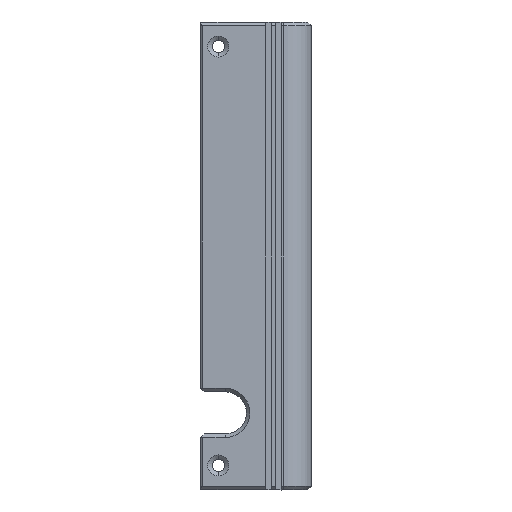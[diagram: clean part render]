
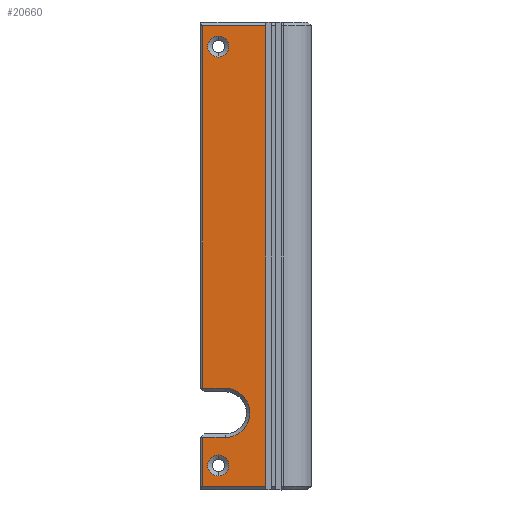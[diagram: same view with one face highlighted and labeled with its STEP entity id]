
A CAD part, left-side view. The second image highlights one B-rep face of the part: STEP entity #20660.
In plain terms, the highlighted planar face has unit normal (-1, 0, 0) as drawn and (1, 0, 0) by its records, which use the part's own axes.
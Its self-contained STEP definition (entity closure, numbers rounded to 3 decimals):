
#7426=DIRECTION('',(0.,0.,1.));
#7427=VECTOR('',#7426,131.5);
#7428=CARTESIAN_POINT('',(188.2,18.5,-132.5));
#7429=LINE('',#7428,#7427);
#7454=DIRECTION('',(0.,0.,-1.));
#7455=VECTOR('',#7454,14.);
#7456=CARTESIAN_POINT('',(188.2,0.5,
-118.5));
#7457=LINE('',#7456,#7455);
#7461=CARTESIAN_POINT('',(188.2,0.5,-132.5));
#9481=CARTESIAN_POINT('',(188.2,0.5,-1.));
#9486=DIRECTION('',(0.,0.,-1.));
#9487=VECTOR('',#9486,103.5);
#9488=CARTESIAN_POINT('',(188.2,0.5,-1.));
#9489=LINE('',#9488,#9487);
#9499=CARTESIAN_POINT('',(188.2,0.5,
-104.5));
#9504=DIRECTION('',(0.,1.,0.));
#9505=VECTOR('',#9504,6.5);
#9506=CARTESIAN_POINT('',(188.2,0.5,
-104.5));
#9507=LINE('',#9506,#9505);
#9518=CARTESIAN_POINT('',(188.2,7.,-111.5));
#9519=DIRECTION('',(1.,0.,0.));
#9520=DIRECTION('',(0.,0.,-1.));
#9521=AXIS2_PLACEMENT_3D('',#9518,#9519,#9520);
#9526=DIRECTION('',(0.,1.,0.));
#9527=VECTOR('',#9526,18.);
#9528=CARTESIAN_POINT('',(188.2,0.5,-1.));
#9529=LINE('',#9528,#9527);
#9533=DIRECTION('',(0.,-1.,0.));
#9534=VECTOR('',#9533,18.);
#9535=CARTESIAN_POINT('',(188.2,18.5,-132.5));
#9536=LINE('',#9535,#9534);
#9540=CARTESIAN_POINT('',(188.2,5.,-7.));
#9541=DIRECTION('',(1.,0.,0.));
#9542=DIRECTION('',(0.,0.,-1.));
#9543=AXIS2_PLACEMENT_3D('',#9540,#9541,#9542);
#9548=CARTESIAN_POINT('',(188.2,5.,-7.));
#9549=DIRECTION('',(1.,0.,0.));
#9550=DIRECTION('',(0.,0.,1.));
#9551=AXIS2_PLACEMENT_3D('',#9548,#9549,#9550);
#9556=CARTESIAN_POINT('',(188.2,5.,-126.5));
#9557=DIRECTION('',(1.,0.,0.));
#9558=DIRECTION('',(0.,0.,-1.));
#9559=AXIS2_PLACEMENT_3D('',#9556,#9557,#9558);
#9564=CARTESIAN_POINT('',(188.2,5.,-126.5));
#9565=DIRECTION('',(1.,0.,0.));
#9566=DIRECTION('',(0.,0.,1.));
#9567=AXIS2_PLACEMENT_3D('',#9564,#9565,#9566);
#9572=DIRECTION('',(0.,-1.,0.));
#9573=VECTOR('',#9572,6.499);
#9574=CARTESIAN_POINT('',(188.2,6.999,-118.5));
#9575=LINE('',#9574,#9573);
#9579=CARTESIAN_POINT('',(188.2,0.5,
-118.5));
#16932=CARTESIAN_POINT('',(188.2,18.5,-132.5));
#16933=VERTEX_POINT('',#16932);
#16934=CARTESIAN_POINT('',(188.2,18.5,-1.));
#16935=VERTEX_POINT('',#16934);
#16936=VERTEX_POINT('',#7461);
#16940=VERTEX_POINT('',#9579);
#17263=VERTEX_POINT('',#9481);
#17264=VERTEX_POINT('',#9499);
#17265=CARTESIAN_POINT('',(188.2,7.,
-104.5));
#17266=VERTEX_POINT('',#17265);
#17269=CARTESIAN_POINT('',(188.2,6.999,
-118.5));
#17270=VERTEX_POINT('',#17269);
#17271=CARTESIAN_POINT('',(188.2,5.,-10.));
#17272=CARTESIAN_POINT('',(188.2,5.,-4.));
#17273=VERTEX_POINT('',#17271);
#17274=VERTEX_POINT('',#17272);
#17275=CARTESIAN_POINT('',(188.2,5.,-129.5));
#17276=CARTESIAN_POINT('',(188.2,5.,-123.5));
#17277=VERTEX_POINT('',#17275);
#17278=VERTEX_POINT('',#17276);
#20631=CARTESIAN_POINT('',(188.2,31.5,-133.5));
#20632=DIRECTION('',(1.,0.,0.));
#20633=DIRECTION('',(0.,0.,1.));
#20634=AXIS2_PLACEMENT_3D('',#20631,#20632,#20633);
#20635=PLANE('',#20634);
#20637=ORIENTED_EDGE('',*,*,#20636,.F.);
#20639=ORIENTED_EDGE('',*,*,#20638,.T.);
#20640=ORIENTED_EDGE('',*,*,#20621,.F.);
#20641=ORIENTED_EDGE('',*,*,#20610,.F.);
#20642=ORIENTED_EDGE('',*,*,#20595,.T.);
#20643=ORIENTED_EDGE('',*,*,#18970,.F.);
#20644=ORIENTED_EDGE('',*,*,#18985,.T.);
#20645=ORIENTED_EDGE('',*,*,#19003,.F.);
#20646=EDGE_LOOP('',(#20637,#20639,#20640,#20641,#20642,#20643,#20644,#20645));
#20647=FACE_OUTER_BOUND('',#20646,.F.);
#20649=ORIENTED_EDGE('',*,*,#20648,.T.);
#20651=ORIENTED_EDGE('',*,*,#20650,.T.);
#20652=EDGE_LOOP('',(#20649,#20651));
#20653=FACE_BOUND('',#20652,.F.);
#20655=ORIENTED_EDGE('',*,*,#20654,.T.);
#20657=ORIENTED_EDGE('',*,*,#20656,.T.);
#20658=EDGE_LOOP('',(#20655,#20657));
#20659=FACE_BOUND('',#20658,.F.);
#20660=ADVANCED_FACE('',(#20647,#20653,#20659),#20635,.T.);
#9522=CIRCLE('',#9521,7.);
#9544=CIRCLE('',#9543,3.);
#9552=CIRCLE('',#9551,3.);
#9560=CIRCLE('',#9559,3.);
#9568=CIRCLE('',#9567,3.);
#18970=EDGE_CURVE('',#16933,#16935,#7429,.T.);
#18985=EDGE_CURVE('',#16933,#16936,#9536,.T.);
#19003=EDGE_CURVE('',#16940,#16936,#7457,.T.);
#20595=EDGE_CURVE('',#17263,#16935,#9529,.T.);
#20610=EDGE_CURVE('',#17263,#17264,#9489,.T.);
#20621=EDGE_CURVE('',#17264,#17266,#9507,.T.);
#20636=EDGE_CURVE('',#17270,#16940,#9575,.T.);
#20638=EDGE_CURVE('',#17270,#17266,#9522,.T.);
#20648=EDGE_CURVE('',#17273,#17274,#9544,.T.);
#20650=EDGE_CURVE('',#17274,#17273,#9552,.T.);
#20654=EDGE_CURVE('',#17277,#17278,#9560,.T.);
#20656=EDGE_CURVE('',#17278,#17277,#9568,.T.);
